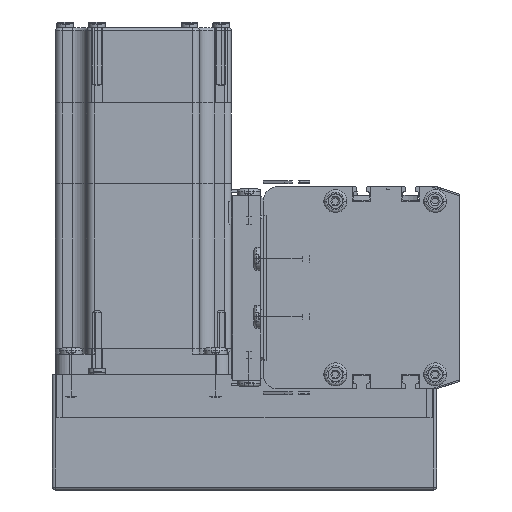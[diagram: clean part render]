
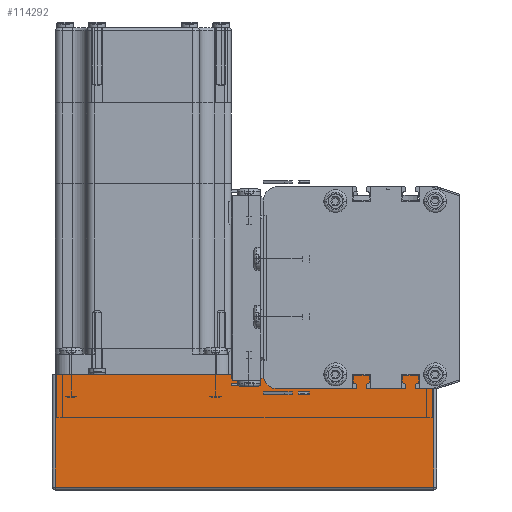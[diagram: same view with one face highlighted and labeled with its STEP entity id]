
A CAD part, left-side view. The second image highlights one B-rep face of the part: STEP entity #114292.
In plain terms, the highlighted planar face has unit normal (-1, 0, 0) as drawn and (0, 1, 0) by its records, which use the part's own axes.
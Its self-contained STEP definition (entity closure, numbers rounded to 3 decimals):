
#10580 = EDGE_CURVE ( 'NONE', #59167, #114294, #94830, .T. ) ;
#40292 = CARTESIAN_POINT ( 'NONE',  ( 132., 62., 39. ) ) ;
#40296 = DIRECTION ( 'NONE',  ( 0., 0., -1. ) ) ;
#40297 = DIRECTION ( 'NONE',  ( 0., -1., 0. ) ) ;
#40303 = CARTESIAN_POINT ( 'NONE',  ( 1., 62., 39. ) ) ;
#40307 = PLANE ( 'NONE',  #40314 ) ;
#40309 = DIRECTION ( 'NONE',  ( 1., 0., 0. ) ) ;
#40311 = VECTOR ( 'NONE', #40309, 1000. ) ;
#40314 = AXIS2_PLACEMENT_3D ( 'NONE', #40335, #40297, #40296 ) ;
#40320 = FACE_OUTER_BOUND ( 'NONE', #114297, .T. ) ;
#40329 = CARTESIAN_POINT ( 'NONE',  ( 0., 62., 39. ) ) ;
#40331 = LINE ( 'NONE', #40329, #40311 ) ;
#40335 = CARTESIAN_POINT ( 'NONE',  ( 0., 62., 40. ) ) ;
#46746 = EDGE_CURVE ( 'NONE', #114295, #59308, #56518, .T. ) ;
#48679 = CARTESIAN_POINT ( 'NONE',  ( 1., 62., 0. ) ) ;
#48777 = DIRECTION ( 'NONE',  ( -1., 0., 0. ) ) ;
#48778 = VECTOR ( 'NONE', #48777, 1000. ) ;
#48780 = CARTESIAN_POINT ( 'NONE',  ( 0., 62., 0. ) ) ;
#48781 = LINE ( 'NONE', #48780, #48778 ) ;
#48802 = ORIENTED_EDGE ( 'NONE', *, *, #59185, .T. ) ;
#48868 = CARTESIAN_POINT ( 'NONE',  ( 132., 62., 0. ) ) ;
#56504 = DIRECTION ( 'NONE',  ( 0., 0., -1. ) ) ;
#56505 = VECTOR ( 'NONE', #56504, 1000. ) ;
#56516 = CARTESIAN_POINT ( 'NONE',  ( 132., 62., 40. ) ) ;
#56518 = LINE ( 'NONE', #56516, #56505 ) ;
#59167 = VERTEX_POINT ( 'NONE', #48679 ) ;
#59185 = EDGE_CURVE ( 'NONE', #59308, #59167, #48781, .T. ) ;
#59308 = VERTEX_POINT ( 'NONE', #48868 ) ;
#94825 = DIRECTION ( 'NONE',  ( 0., 0., 1. ) ) ;
#94826 = VECTOR ( 'NONE', #94825, 1000. ) ;
#94828 = CARTESIAN_POINT ( 'NONE',  ( 1., 62., 40. ) ) ;
#94830 = LINE ( 'NONE', #94828, #94826 ) ;
#94925 = ORIENTED_EDGE ( 'NONE', *, *, #10580, .T. ) ;
#111443 = ORIENTED_EDGE ( 'NONE', *, *, #46746, .T. ) ;
#114291 = EDGE_CURVE ( 'NONE', #114294, #114295, #40331, .T. ) ;
#114292 = ADVANCED_FACE ( 'NONE', ( #40320 ), #40307, .F. ) ;
#114294 = VERTEX_POINT ( 'NONE', #40303 ) ;
#114295 = VERTEX_POINT ( 'NONE', #40292 ) ;
#114297 = EDGE_LOOP ( 'NONE', ( #114299, #111443, #48802, #94925 ) ) ;
#114299 = ORIENTED_EDGE ( 'NONE', *, *, #114291, .T. ) ;
